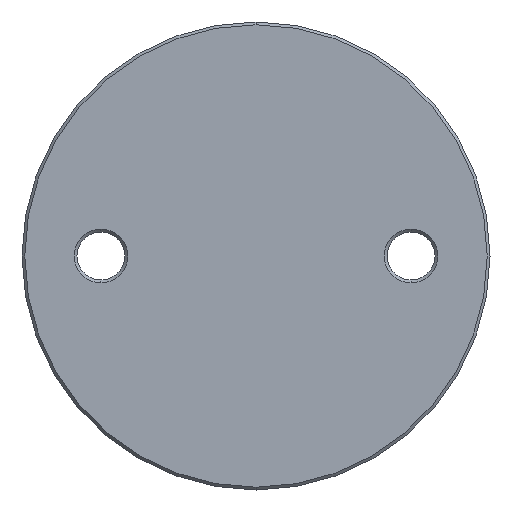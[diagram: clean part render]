
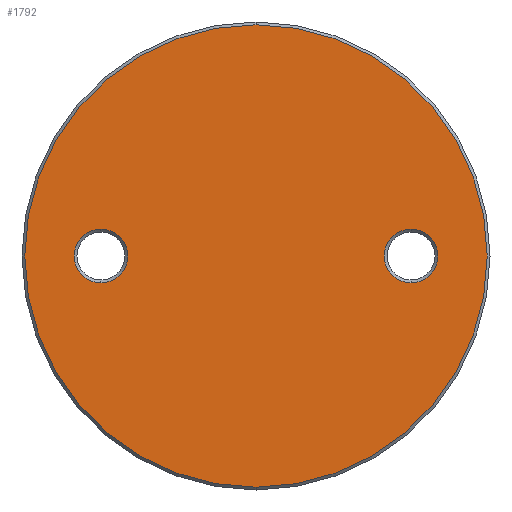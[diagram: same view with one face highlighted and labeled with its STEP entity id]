
A CAD part, front view. The second image highlights one B-rep face of the part: STEP entity #1792.
In plain terms, the highlighted planar face has unit normal (0, -1, 0).
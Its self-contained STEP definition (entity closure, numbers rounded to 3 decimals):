
#114 = EDGE_LOOP ( 'NONE', ( #3160, #3224 ) ) ;
#379 = DIRECTION ( 'NONE',  ( 0., 1., 0. ) ) ;
#629 = DIRECTION ( 'NONE',  ( 0., 1., 0. ) ) ;
#675 = DIRECTION ( 'NONE',  ( 0., 0., -1. ) ) ;
#745 = DIRECTION ( 'NONE',  ( 0., 0., -1. ) ) ;
#769 = CIRCLE ( 'NONE', #8251, 4.75 ) ;
#774 = CIRCLE ( 'NONE', #2471, 4.75 ) ;
#1161 = VERTEX_POINT ( 'NONE', #6598 ) ;
#1280 = PLANE ( 'NONE',  #7559 ) ;
#1293 = FACE_OUTER_BOUND ( 'NONE', #114, .T. ) ;
#1356 = DIRECTION ( 'NONE',  ( 0., 0., -1. ) ) ;
#1427 = EDGE_CURVE ( 'NONE', #6240, #7443, #769, .T. ) ;
#1555 = ORIENTED_EDGE ( 'NONE', *, *, #7484, .T. ) ;
#1792 = ADVANCED_FACE ( 'NONE', ( #3015, #2575, #1293 ), #1280, .T. ) ;
#2238 = VERTEX_POINT ( 'NONE', #8864 ) ;
#2471 = AXIS2_PLACEMENT_3D ( 'NONE', #4546, #379, #2508 ) ;
#2496 = DIRECTION ( 'NONE',  ( 0., 1., 0. ) ) ;
#2508 = DIRECTION ( 'NONE',  ( 0., 0., -1. ) ) ;
#2566 = CARTESIAN_POINT ( 'NONE',  ( 0., -3., 41.5 ) ) ;
#2575 = FACE_BOUND ( 'NONE', #2875, .T. ) ;
#2815 = CIRCLE ( 'NONE', #8803, 4.75 ) ;
#2870 = CARTESIAN_POINT ( 'NONE',  ( 27.5, -3., 4.75 ) ) ;
#2875 = EDGE_LOOP ( 'NONE', ( #7604, #1555 ) ) ;
#2932 = VERTEX_POINT ( 'NONE', #5812 ) ;
#3015 = FACE_BOUND ( 'NONE', #4096, .T. ) ;
#3160 = ORIENTED_EDGE ( 'NONE', *, *, #7535, .T. ) ;
#3199 = CARTESIAN_POINT ( 'NONE',  ( 27.5, -3., -4.75 ) ) ;
#3224 = ORIENTED_EDGE ( 'NONE', *, *, #8115, .T. ) ;
#3454 = CARTESIAN_POINT ( 'NONE',  ( 27.5, -3., 0. ) ) ;
#3571 = CIRCLE ( 'NONE', #7549, 41. ) ;
#4096 = EDGE_LOOP ( 'NONE', ( #8154, #5429 ) ) ;
#4199 = DIRECTION ( 'NONE',  ( 0., 0., -1. ) ) ;
#4222 = CARTESIAN_POINT ( 'NONE',  ( 0., -3., 0. ) ) ;
#4546 = CARTESIAN_POINT ( 'NONE',  ( -27.5, -3., 0. ) ) ;
#4716 = DIRECTION ( 'NONE',  ( 0., 0., -1. ) ) ;
#5366 = DIRECTION ( 'NONE',  ( 0., -1., 0. ) ) ;
#5429 = ORIENTED_EDGE ( 'NONE', *, *, #1427, .T. ) ;
#5442 = DIRECTION ( 'NONE',  ( 0., 1., 0. ) ) ;
#5704 = AXIS2_PLACEMENT_3D ( 'NONE', #6790, #5442, #1356 ) ;
#5812 = CARTESIAN_POINT ( 'NONE',  ( 0., -3., 41. ) ) ;
#6046 = AXIS2_PLACEMENT_3D ( 'NONE', #7552, #8220, #675 ) ;
#6240 = VERTEX_POINT ( 'NONE', #2870 ) ;
#6350 = CIRCLE ( 'NONE', #5704, 4.75 ) ;
#6583 = CIRCLE ( 'NONE', #6046, 41. ) ;
#6598 = CARTESIAN_POINT ( 'NONE',  ( -27.5, -3., -4.75 ) ) ;
#6790 = CARTESIAN_POINT ( 'NONE',  ( 27.5, -3., 0. ) ) ;
#6997 = DIRECTION ( 'NONE',  ( 0., -1., 0. ) ) ;
#7031 = VERTEX_POINT ( 'NONE', #7269 ) ;
#7269 = CARTESIAN_POINT ( 'NONE',  ( -27.5, -3., 4.75 ) ) ;
#7309 = DIRECTION ( 'NONE',  ( 0., 0., -1. ) ) ;
#7443 = VERTEX_POINT ( 'NONE', #3199 ) ;
#7484 = EDGE_CURVE ( 'NONE', #7031, #1161, #2815, .T. ) ;
#7535 = EDGE_CURVE ( 'NONE', #2932, #2238, #6583, .T. ) ;
#7549 = AXIS2_PLACEMENT_3D ( 'NONE', #4222, #6997, #4199 ) ;
#7552 = CARTESIAN_POINT ( 'NONE',  ( 0., -3., 0. ) ) ;
#7559 = AXIS2_PLACEMENT_3D ( 'NONE', #2566, #5366, #4716 ) ;
#7604 = ORIENTED_EDGE ( 'NONE', *, *, #8436, .T. ) ;
#8088 = EDGE_CURVE ( 'NONE', #7443, #6240, #6350, .T. ) ;
#8097 = CARTESIAN_POINT ( 'NONE',  ( -27.5, -3., 0. ) ) ;
#8115 = EDGE_CURVE ( 'NONE', #2238, #2932, #3571, .T. ) ;
#8154 = ORIENTED_EDGE ( 'NONE', *, *, #8088, .T. ) ;
#8220 = DIRECTION ( 'NONE',  ( 0., -1., 0. ) ) ;
#8251 = AXIS2_PLACEMENT_3D ( 'NONE', #3454, #629, #745 ) ;
#8436 = EDGE_CURVE ( 'NONE', #1161, #7031, #774, .T. ) ;
#8803 = AXIS2_PLACEMENT_3D ( 'NONE', #8097, #2496, #7309 ) ;
#8864 = CARTESIAN_POINT ( 'NONE',  ( 0., -3., -41. ) ) ;
